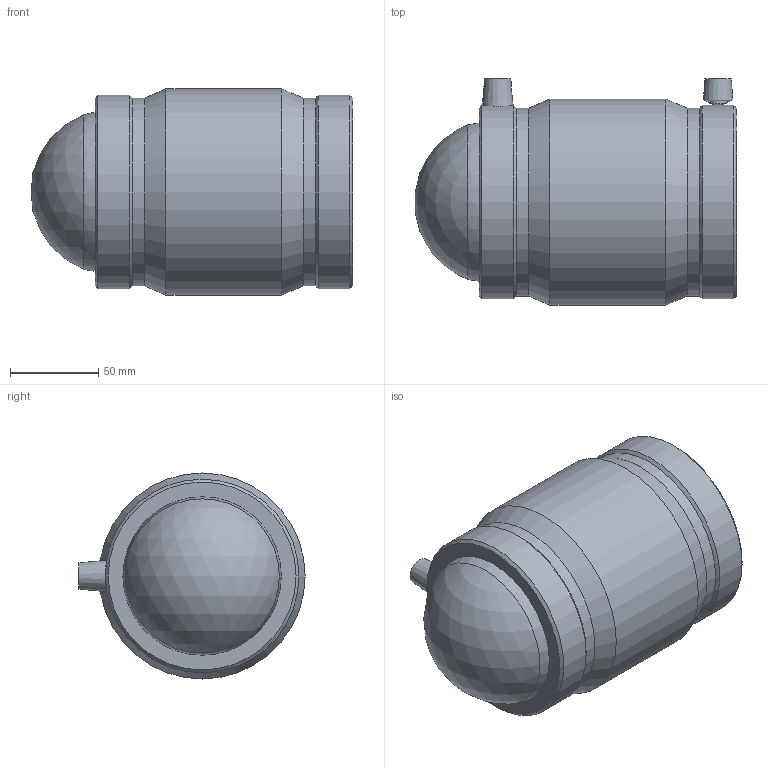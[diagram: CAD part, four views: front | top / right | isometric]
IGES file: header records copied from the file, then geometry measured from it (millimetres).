
Global section: file name: 491204090.ipt; native system: Autodesk Inventor 2015; preprocessor: unknown; author: KIM; date: 20171106.093754; units: millimetre
Bounding box: 182.66 x 128.5 x 117 mm (x, y, z)
Volume: 782592.3 mm3; surface area: 121003.4 mm2
Topology: 2 solids, 3 shells, 40 faces, 84 edges, 58 vertices
Faces by surface type: plane 12, revolution 11, cylinder 8, cone 8, sphere 1
Full cylindrical faces by diameter (mm): 4 x2, 90 x1, 106.681 x2, 109.98 x2, 117 x1
